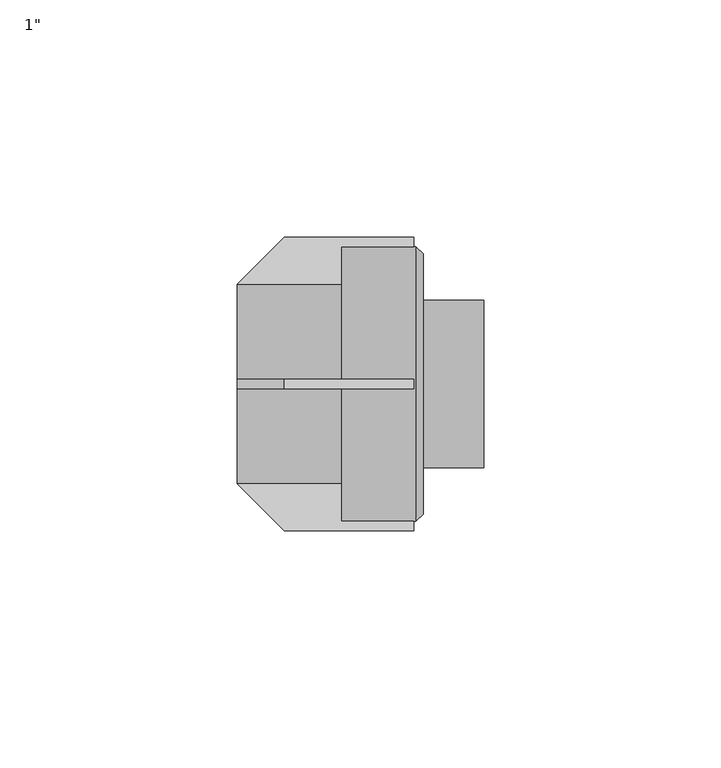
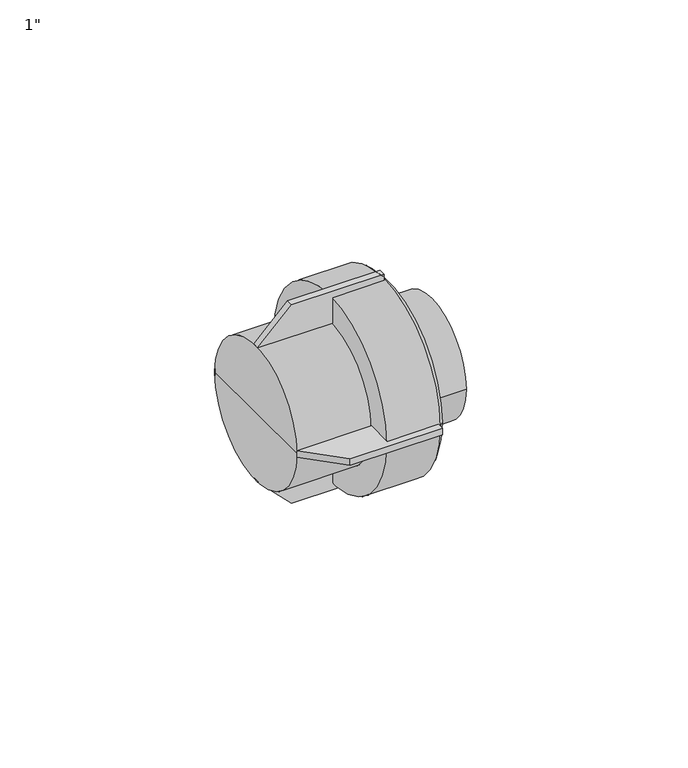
"""IFC4 building model written with IfcOpenShell, lengths in millimetres: pipe fitting geometry."""

from ifc_helpers import new_model, si_unit, frame, origin, place, context, project, spatial, polyline, circle_curve, outline, extrude, source, transform, mapped, element, save
from ifc_brep_helpers import plane_surface, cylinder_surface, revolved_surface, advanced_brep


def pipe_fitting_2e6c01af(model_context):
    return source(origin(), model_context, "Body", "SolidModel", [
        extrude(outline(polyline([(21.0, -18.1), (21.0, 3.95), (29.0, 3.95), (29.0, 19.15), (31.0, 19.15), (31.0, -8.1), (21.0, -18.1)])), frame((0.0, -1.0, 0.0), z_axis=(0.0, 1.0, 0.0), x_axis=(0.0, 0.0, 1.0)), (0.0, 0.0, 1.0), 2.0),
        extrude(outline(polyline([(-21.0, -18.1), (-31.0, -8.1), (-31.0, 19.15), (-29.0, 19.15), (-29.0, 3.95), (-21.0, 3.95), (-21.0, -18.1)])), frame((0.0, -1.0, 0.0), z_axis=(0.0, 1.0, 0.0), x_axis=(0.0, 0.0, 1.0)), (0.0, 0.0, 1.0), 2.0),
        extrude(outline(polyline([(3.95, 21.0), (-18.1, 21.0), (-8.1, 31.0), (19.15, 31.0), (19.15, 29.0), (3.95, 29.0), (3.95, 21.0)])), frame((0.0, 0.0, -1.0), z_axis=(0.0, 0.0, 1.0), x_axis=(1.0, 0.0, 0.0)), (0.0, 0.0, 1.0), 2.0),
        extrude(outline(polyline([(-18.1, -21.0), (3.95, -21.0), (3.95, -29.0), (19.15, -29.0), (19.15, -31.0), (-8.1, -31.0), (-18.1, -21.0)])), frame((0.0, 0.0, -1.0), z_axis=(0.0, 0.0, 1.0), x_axis=(1.0, 0.0, 0.0)), (0.0, 0.0, 1.0), 2.0),
        advanced_brep(
        [(33.9, -17.7, 0.0), (33.9, 17.7, 0.0), (33.9, 0.0, 0.0), (3.95, -29.0, 0.0), (3.95, 29.0, 0.0), (19.65, 29.0, 0.0), (19.65, -29.0, 0.0), (-18.1, 0.0, 0.0), (-18.1, 21.0, 0.0), (-18.1, -21.0, 0.0), (3.95, -21.0, 0.0), (3.95, 21.0, 0.0), (21.15, -17.7, 0.0), (21.15, 17.7, 0.0), (21.15, -27.5, 0.0), (21.15, 27.5, 0.0)],
        [
            (0, 1, circle_curve(frame((33.9, 0.0, 0.0), z_axis=(1.0, 0.0, 0.0), x_axis=(0.0, 1.0, 0.0)), 17.7)),
            (1, 2),
            (2, 0),
            (1, 0, circle_curve(frame((33.9, 0.0, 0.0), z_axis=(1.0, 0.0, 0.0), x_axis=(0.0, 1.0, 0.0)), 17.7)),
            (3, 4, circle_curve(frame((3.95, 0.0, 0.0), z_axis=(1.0, 0.0, 0.0), x_axis=(0.0, 1.0, 0.0)), 29.0)),
            (4, 5),
            (5, 6, circle_curve(frame((19.65, 0.0, 0.0), z_axis=(-1.0, 0.0, 0.0), x_axis=(0.0, 1.0, 0.0)), 29.0)),
            (6, 3),
            (4, 3, circle_curve(frame((3.95, 0.0, 0.0), z_axis=(1.0, 0.0, 0.0), x_axis=(0.0, 1.0, 0.0)), 29.0)),
            (6, 5, circle_curve(frame((19.65, 0.0, 0.0), z_axis=(-1.0, 0.0, 0.0), x_axis=(0.0, 1.0, 0.0)), 29.0)),
            (7, 8),
            (8, 9, circle_curve(frame((-18.1, 0.0, 0.0), z_axis=(-1.0, 0.0, 0.0), x_axis=(0.0, 1.0, 0.0)), 21.0)),
            (9, 7),
            (9, 8, circle_curve(frame((-18.1, 0.0, 0.0), z_axis=(-1.0, 0.0, 0.0), x_axis=(0.0, 1.0, 0.0)), 21.0)),
            (10, 11, circle_curve(frame((3.95, 0.0, 0.0), z_axis=(1.0, 0.0, 0.0), x_axis=(0.0, 1.0, 0.0)), 21.0)),
            (11, 4),
            (3, 10),
            (11, 10, circle_curve(frame((3.95, 0.0, 0.0), z_axis=(1.0, 0.0, 0.0), x_axis=(0.0, 1.0, 0.0)), 21.0)),
            (8, 11),
            (10, 9),
            (12, 13, circle_curve(frame((21.15, 0.0, 0.0), z_axis=(1.0, 0.0, 0.0), x_axis=(0.0, 1.0, 0.0)), 17.7)),
            (13, 1),
            (0, 12),
            (13, 12, circle_curve(frame((21.15, 0.0, 0.0), z_axis=(1.0, 0.0, 0.0), x_axis=(0.0, 1.0, 0.0)), 17.7)),
            (14, 15, circle_curve(frame((21.15, 0.0, 0.0), z_axis=(1.0, 0.0, 0.0), x_axis=(0.0, 1.0, 0.0)), 27.5)),
            (15, 13),
            (12, 14),
            (15, 14, circle_curve(frame((21.15, 0.0, 0.0), z_axis=(1.0, 0.0, 0.0), x_axis=(0.0, 1.0, 0.0)), 27.5)),
            (5, 15),
            (14, 6),
        ],
        [
            plane_surface(frame((33.9, 0.0, 0.0), z_axis=(1.0, 0.0, 0.0), x_axis=(0.0, 1.0, 0.0))),
            cylinder_surface(frame((1347.642668, 0.0, 0.0), z_axis=(-1.0, 0.0, 0.0), x_axis=(0.0, 1.0, 0.0)), 29.0),
            plane_surface(frame((-18.1, 0.0, 0.0), z_axis=(-1.0, 0.0, 0.0), x_axis=(0.0, 1.0, 0.0))),
            plane_surface(frame((3.95, 0.0, 0.0), z_axis=(-1.0, 0.0, 0.0), x_axis=(0.0, 1.0, 0.0))),
            cylinder_surface(frame((1347.642668, 0.0, 0.0), z_axis=(-1.0, 0.0, 0.0), x_axis=(0.0, 1.0, 0.0)), 21.0),
            cylinder_surface(frame((1347.642668, 0.0, 0.0), z_axis=(-1.0, 0.0, 0.0), x_axis=(0.0, 1.0, 0.0)), 17.7),
            plane_surface(frame((21.15, 0.0, 0.0), z_axis=(1.0, 0.0, 0.0), x_axis=(0.0, 1.0, 0.0))),
            revolved_surface(polyline([(21.15, 27.5, 0.0), (19.65, 29.0, 0.0)]), (1347.642668, 0.0, 0.0), (-1.0, 0.0, 0.0)),
        ],
        [
            (0, [[1, 2, 3]]),
            (0, [[4, -3, -2]]),
            (1, [[5, 6, 7, 8]]),
            (1, [[9, -8, 10, -6]]),
            (2, [[11, 12, 13]]),
            (2, [[-13, 14, -11]]),
            (3, [[15, 16, -5, 17]]),
            (3, [[18, -17, -9, -16]]),
            (4, [[-12, 19, -15, 20]]),
            (4, [[-14, -20, -18, -19]]),
            (5, [[21, 22, -1, 23]]),
            (5, [[24, -23, -4, -22]]),
            (6, [[25, 26, -21, 27]]),
            (6, [[28, -27, -24, -26]]),
            (7, [[-7, 29, -25, 30]]),
            (7, [[-10, -30, -28, -29]]),
        ],
    ),
    ])


if __name__ == "__main__":
    model = new_model("IFC4")
    model_context = context("Model", 3, world=origin())
    ifc_project = project(units=[si_unit("LENGTHUNIT", "METRE", prefix="MILLI")], contexts=[model_context])
    site = spatial("IfcSite", under=ifc_project)
    building = spatial("IfcBuilding", under=site)
    placement = place(None, origin())
    pipe_fitting_shape = pipe_fitting_2e6c01af(model_context)
    element("IfcPipeFitting", 1, ObjectType="KAN-therm PP mufa gw z sześciokątem : 1\"", at=placement, inside=building, context=model_context, shape_type="MappedRepresentation", body=[
        mapped(pipe_fitting_shape, transform((0.0, 0.0, 0.0), x_axis=(1.0, 0.0, 0.0), y_axis=(0.0, 1.0, 0.0), z_axis=(0.0, 0.0, 1.0))),
    ])
    save(model, "model.ifc")
